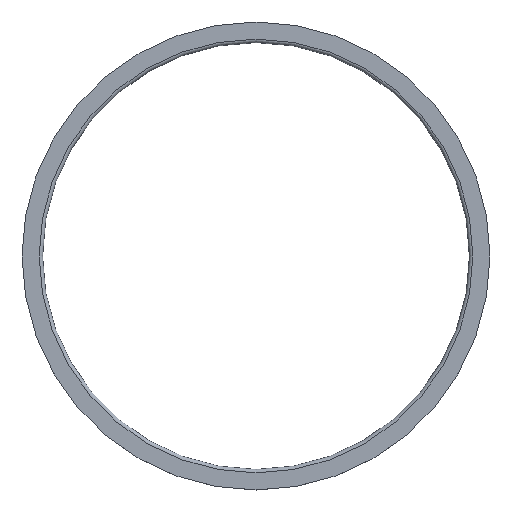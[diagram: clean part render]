
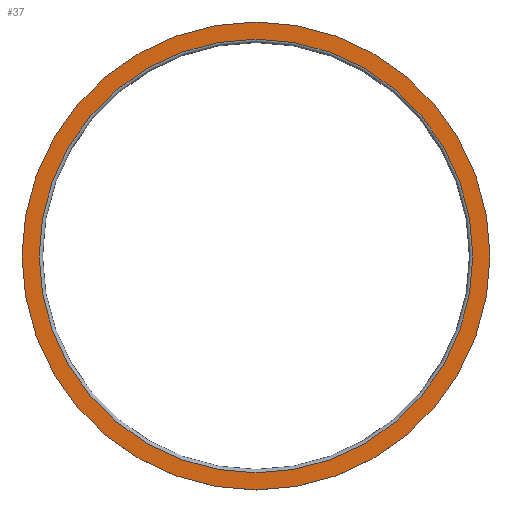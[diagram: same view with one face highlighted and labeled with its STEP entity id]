
A CAD part, top view. The second image highlights one B-rep face of the part: STEP entity #37.
In plain terms, the highlighted planar face has unit normal (0, 0, 1).
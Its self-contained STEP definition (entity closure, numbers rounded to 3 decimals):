
#37 = ADVANCED_FACE( '', ( #72, #73 ), #74, .F. );
#72 = FACE_BOUND( '', #99, .T. );
#73 = FACE_OUTER_BOUND( '', #100, .T. );
#74 = PLANE( '', #101 );
#99 = EDGE_LOOP( '', ( #128 ) );
#100 = EDGE_LOOP( '', ( #129 ) );
#101 = AXIS2_PLACEMENT_3D( '', #130, #131, #132 );
#128 = ORIENTED_EDGE( '', *, *, #140, .T. );
#129 = ORIENTED_EDGE( '', *, *, #134, .F. );
#130 = CARTESIAN_POINT( '', ( 0., 0., 50.8 ) );
#131 = DIRECTION( '', ( 0., 0., -1. ) );
#132 = DIRECTION( '', ( -1., 0., 0. ) );
#134 = EDGE_CURVE( '', #144, #144, #145, .T. );
#140 = EDGE_CURVE( '', #154, #154, #155, .T. );
#144 = VERTEX_POINT( '', #159 );
#145 = CIRCLE( '', #160, 866.2 );
#154 = VERTEX_POINT( '', #169 );
#155 = CIRCLE( '', #170, 802.7 );
#159 = CARTESIAN_POINT( '', ( 866.2, 0., 50.8 ) );
#160 = AXIS2_PLACEMENT_3D( '', #173, #174, #175 );
#169 = CARTESIAN_POINT( '', ( -802.7, 0., 50.8 ) );
#170 = AXIS2_PLACEMENT_3D( '', #185, #186, #187 );
#173 = CARTESIAN_POINT( '', ( 0., 0., 50.8 ) );
#174 = DIRECTION( '', ( 0., 0., -1. ) );
#175 = DIRECTION( '', ( 1., 0., 0. ) );
#185 = CARTESIAN_POINT( '', ( 0., 0., 50.8 ) );
#186 = DIRECTION( '', ( 0., 0., -1. ) );
#187 = DIRECTION( '', ( -1., 0., 0. ) );
